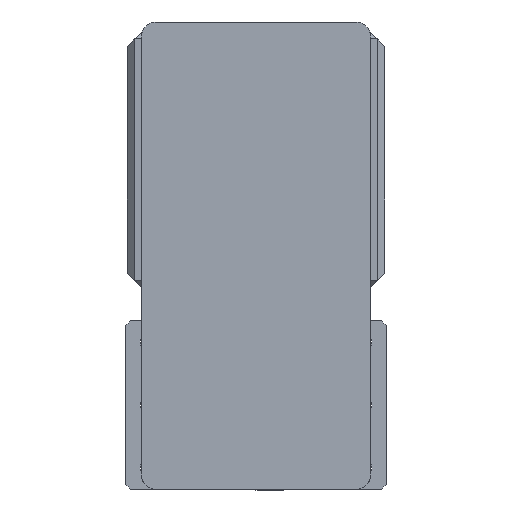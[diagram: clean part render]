
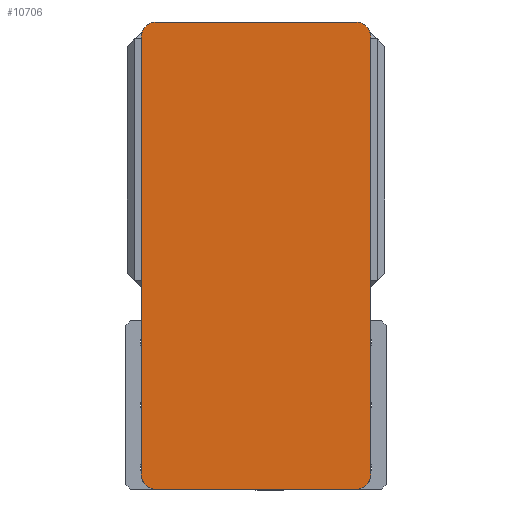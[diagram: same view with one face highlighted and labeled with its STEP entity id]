
A CAD part, left-side view. The second image highlights one B-rep face of the part: STEP entity #10706.
In plain terms, the highlighted planar face has unit normal (-1, 0, 0) as drawn and (0, 0, 1) by its records, which use the part's own axes.
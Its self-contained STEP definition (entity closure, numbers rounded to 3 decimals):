
#83 = VERTEX_POINT ( 'NONE', #7062 ) ;
#120 = EDGE_CURVE ( 'NONE', #9026, #1924, #4695, .T. ) ;
#228 = VERTEX_POINT ( 'NONE', #9640 ) ;
#263 = CARTESIAN_POINT ( 'NONE',  ( -65., -142.5, 105. ) ) ;
#341 = AXIS2_PLACEMENT_3D ( 'NONE', #6670, #8286, #1969 ) ;
#381 = DIRECTION ( 'NONE',  ( 0., 0., 1. ) ) ;
#407 = EDGE_CURVE ( 'NONE', #83, #3359, #1422, .T. ) ;
#509 = ORIENTED_EDGE ( 'NONE', *, *, #407, .T. ) ;
#614 = EDGE_CURVE ( 'NONE', #3499, #7891, #3257, .T. ) ;
#637 = ORIENTED_EDGE ( 'NONE', *, *, #9401, .T. ) ;
#847 = EDGE_CURVE ( 'NONE', #1924, #83, #5374, .T. ) ;
#974 = VECTOR ( 'NONE', #5047, 1000. ) ;
#1242 = AXIS2_PLACEMENT_3D ( 'NONE', #7967, #8053, #8008 ) ;
#1316 = DIRECTION ( 'NONE',  ( 0., 0., 1. ) ) ;
#1317 = DIRECTION ( 'NONE',  ( 0., -1., 0. ) ) ;
#1422 = CIRCLE ( 'NONE', #1242, 10. ) ;
#1597 = AXIS2_PLACEMENT_3D ( 'NONE', #263, #381, #4697 ) ;
#1924 = VERTEX_POINT ( 'NONE', #4138 ) ;
#1969 = DIRECTION ( 'NONE',  ( 1., 0., 0. ) ) ;
#2098 = CARTESIAN_POINT ( 'NONE',  ( 65., -142.5, 105. ) ) ;
#2125 = CARTESIAN_POINT ( 'NONE',  ( -75., 142.5, 105. ) ) ;
#2325 = VERTEX_POINT ( 'NONE', #7109 ) ;
#2452 = CARTESIAN_POINT ( 'NONE',  ( -75., 152.5, 105. ) ) ;
#2508 = CARTESIAN_POINT ( 'NONE',  ( 75., 142.5, 105. ) ) ;
#2921 = CARTESIAN_POINT ( 'NONE',  ( -65., -152.5, 105. ) ) ;
#2940 = DIRECTION ( 'NONE',  ( 1., 0., 0. ) ) ;
#2972 = CARTESIAN_POINT ( 'NONE',  ( 0., 0., 105. ) ) ;
#3125 = VECTOR ( 'NONE', #5659, 1000. ) ;
#3209 = LINE ( 'NONE', #7464, #974 ) ;
#3257 = CIRCLE ( 'NONE', #1597, 10. ) ;
#3303 = VECTOR ( 'NONE', #1317, 1000. ) ;
#3329 = EDGE_CURVE ( 'NONE', #2325, #228, #6353, .T. ) ;
#3359 = VERTEX_POINT ( 'NONE', #2125 ) ;
#3499 = VERTEX_POINT ( 'NONE', #5661 ) ;
#3625 = EDGE_CURVE ( 'NONE', #7891, #2325, #3209, .T. ) ;
#3683 = ORIENTED_EDGE ( 'NONE', *, *, #9212, .T. ) ;
#3833 = CARTESIAN_POINT ( 'NONE',  ( -75., 152.5, 105. ) ) ;
#4138 = CARTESIAN_POINT ( 'NONE',  ( 65., 152.5, 105. ) ) ;
#4519 = FACE_OUTER_BOUND ( 'NONE', #4984, .T. ) ;
#4596 = AXIS2_PLACEMENT_3D ( 'NONE', #2098, #7912, #2940 ) ;
#4695 = CIRCLE ( 'NONE', #341, 10. ) ;
#4697 = DIRECTION ( 'NONE',  ( 1., 0., 0. ) ) ;
#4915 = VECTOR ( 'NONE', #8564, 1000. ) ;
#4984 = EDGE_LOOP ( 'NONE', ( #6000, #10010, #3683, #9077, #6355, #509, #637, #5398 ) ) ;
#5047 = DIRECTION ( 'NONE',  ( 1., 0., 0. ) ) ;
#5374 = LINE ( 'NONE', #2452, #3125 ) ;
#5398 = ORIENTED_EDGE ( 'NONE', *, *, #614, .T. ) ;
#5553 = LINE ( 'NONE', #3833, #3303 ) ;
#5659 = DIRECTION ( 'NONE',  ( -1., 0., 0. ) ) ;
#5661 = CARTESIAN_POINT ( 'NONE',  ( -75., -142.5, 105. ) ) ;
#6000 = ORIENTED_EDGE ( 'NONE', *, *, #3625, .T. ) ;
#6330 = PLANE ( 'NONE',  #10572 ) ;
#6353 = CIRCLE ( 'NONE', #4596, 10. ) ;
#6355 = ORIENTED_EDGE ( 'NONE', *, *, #847, .T. ) ;
#6670 = CARTESIAN_POINT ( 'NONE',  ( 65., 142.5, 105. ) ) ;
#6893 = CARTESIAN_POINT ( 'NONE',  ( 75., 152.5, 105. ) ) ;
#7062 = CARTESIAN_POINT ( 'NONE',  ( -65., 152.5, 105. ) ) ;
#7072 = LINE ( 'NONE', #6893, #4915 ) ;
#7109 = CARTESIAN_POINT ( 'NONE',  ( 65., -152.5, 105. ) ) ;
#7151 = DIRECTION ( 'NONE',  ( 1., 0., 0. ) ) ;
#7464 = CARTESIAN_POINT ( 'NONE',  ( -75., -152.5, 105. ) ) ;
#7891 = VERTEX_POINT ( 'NONE', #2921 ) ;
#7912 = DIRECTION ( 'NONE',  ( 0., 0., 1. ) ) ;
#7967 = CARTESIAN_POINT ( 'NONE',  ( -65., 142.5, 105. ) ) ;
#8008 = DIRECTION ( 'NONE',  ( 1., 0., 0. ) ) ;
#8053 = DIRECTION ( 'NONE',  ( 0., 0., 1. ) ) ;
#8286 = DIRECTION ( 'NONE',  ( 0., 0., 1. ) ) ;
#8564 = DIRECTION ( 'NONE',  ( 0., 1., 0. ) ) ;
#9026 = VERTEX_POINT ( 'NONE', #2508 ) ;
#9077 = ORIENTED_EDGE ( 'NONE', *, *, #120, .T. ) ;
#9212 = EDGE_CURVE ( 'NONE', #228, #9026, #7072, .T. ) ;
#9401 = EDGE_CURVE ( 'NONE', #3359, #3499, #5553, .T. ) ;
#9640 = CARTESIAN_POINT ( 'NONE',  ( 75., -142.5, 105. ) ) ;
#10010 = ORIENTED_EDGE ( 'NONE', *, *, #3329, .T. ) ;
#10572 = AXIS2_PLACEMENT_3D ( 'NONE', #2972, #1316, #7151 ) ;
#10706 = ADVANCED_FACE ( 'NONE', ( #4519 ), #6330, .T. ) ;
